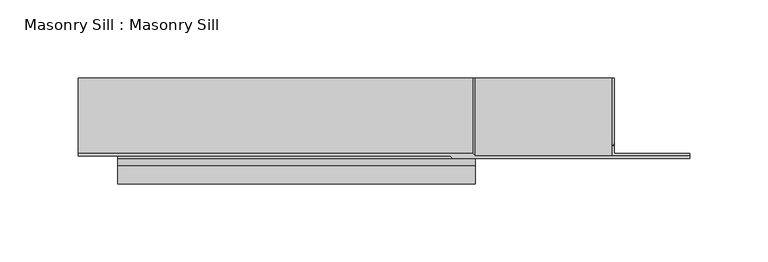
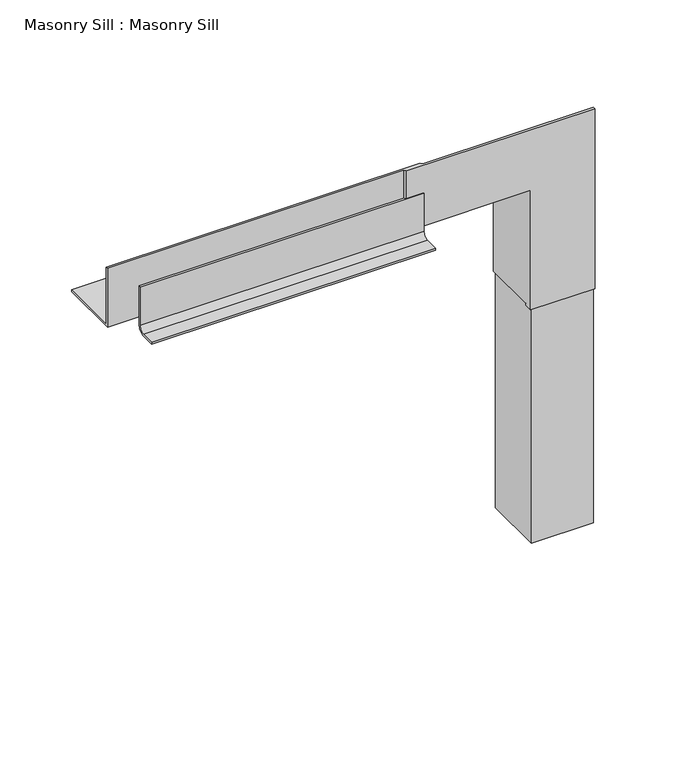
"""IFC4 building model written with IfcOpenShell, lengths in millimetres: proxy geometry, Masonry Sill : Masonry Sill."""

from ifc_helpers import new_model, si_unit, point, frame, frame_2d, origin, place, context, project, spatial, polyline, circle_curve, trimmed, segment, composite_curve, outline, extrude, faceted_brep, source, transform, mapped, element, save


def masonry_sill_masonry_sill_2c722ada(model_context):
    return source(origin(), model_context, "Body", "SolidModel", [
        extrude(outline(composite_curve([segment(polyline([(624.4566297, 296.8525191), (624.4566297, 329.4048158), (626.0441297, 329.4048158), (626.0441297, 296.8525191)]), True, "CONTINUOUS"), segment(trimmed(circle_curve(frame_2d((619.6941297, 296.8525191)), 6.35), [point((626.0441297, 296.8525191))], [point((619.6941297, 290.5025191))], False, "CARTESIAN"), True, "CONTINUOUS"), segment(polyline([(619.6941297, 290.5025191), (608.340453, 290.5025191), (608.340453, 292.0900191), (619.6941297, 292.0900191)]), True, "CONTINUOUS"), segment(trimmed(circle_curve(frame_2d((619.6941297, 296.8525191)), 4.7625), [point((619.6941297, 292.0900191))], [point((624.4566297, 296.8525191))], True, "CARTESIAN"), True, "CONTINUOUS")], self_intersect=False)), frame((26539.9726773, 0.0, 0.0), z_axis=(1.0, 0.0, 0.0), x_axis=(0.0, 1.0, 0.0)), (0.0, 0.0, 1.0), 228.6),
        faceted_brep([(26514.5726773, 626.0441297, 303.2125), (26514.5726773, 626.0441297, 353.2173158), (26514.5726773, 627.6316297, 353.2173158), (26514.5726773, 627.6316297, 304.8), (26514.5726773, 676.0489454, 304.8), (26514.5726773, 676.0489454, 303.2125), (26752.6976773, 626.0441297, 303.2125), (26752.6976773, 626.0441297, 353.2173158), (26754.2851773, 624.4566297, 353.2173158), (26905.8899931, 624.4566297, 353.2173158), (26905.8899931, 626.0441297, 353.2173158), (26768.5726773, 626.0441297, 353.2173158), (26766.9851773, 627.6316297, 353.2173158), (26766.9851773, 627.6316297, 304.8), (26766.9851773, 676.0489454, 304.8), (26768.5726773, 676.0489454, 303.2125), (26855.8851773, 676.0489454, 303.2125), (26855.8851773, 676.0489454, 215.9), (26857.4726773, 676.0489454, 214.3125), (26857.4726773, 676.0489454, 0.0), (26855.8851773, 676.0489454, 0.0), (26855.8851773, 676.0489454, 200.025), (26854.2976773, 676.0489454, 201.6125), (26854.2976773, 676.0489454, 301.625), (26754.2851773, 676.0489454, 301.625), (26752.6976773, 676.0489454, 303.2125), (26855.8851773, 626.0441297, 303.2125), (26768.5726773, 626.0441297, 303.2125), (26905.8899931, 626.0441297, 215.9), (26855.8851773, 626.0441297, 215.9), (26854.2976773, 624.4566297, 301.625), (26754.2851773, 624.4566297, 301.625), (26854.2976773, 624.4566297, 200.025), (26905.8899931, 624.4566297, 200.025), (26854.2976773, 630.8066297, 200.025), (26855.8851773, 630.8066297, 200.025), (26855.8851773, 626.0441297, 200.025), (26905.8899931, 626.0441297, 200.025), (26905.8899931, 626.0441297, 0.0), (26905.8899931, 627.6316297, 0.0), (26905.8899931, 627.6316297, 215.9), (26855.8851773, 632.3941297, 215.9), (26854.2976773, 630.8066297, 201.6125), (26857.4726773, 627.6316297, 215.9), (26857.4726773, 632.3941297, 215.9), (26855.8851773, 626.0441297, 0.0), (26857.4726773, 627.6316297, 0.0), (26857.4726773, 633.9816297, 214.3125), (26857.4726773, 632.3941297, 200.025), (26857.4726773, 630.8066297, 200.025), (26857.4726773, 630.8066297, 201.6125), (26855.8851773, 632.3941297, 200.025)], [[[0, 1, 2, 3, 4, 5]], [[1, 0, 6, 7]], [[2, 1, 7, 8, 9, 10, 11, 12]], [[3, 2, 12, 13]], [[4, 3, 13, 14]], [[5, 4, 14, 15, 16, 17, 18, 19, 20, 21, 22, 23, 24, 25]], [[0, 5, 25, 6]], [[26, 27, 11, 10, 28, 29]], [[26, 16, 15, 27]], [[23, 30, 31, 24]], [[30, 32, 33, 9, 8, 31]], [[33, 32, 34, 35, 36, 37]], [[10, 9, 33, 37, 38, 39, 40, 28]], [[16, 26, 29, 41, 17]], [[30, 23, 22, 42, 34, 32]], [[28, 40, 43, 44, 41, 29]], [[45, 20, 19, 46, 39, 38]], [[45, 38, 37, 36]], [[43, 40, 39, 46]], [[46, 19, 18, 47, 44, 43], [48, 49, 50]], [[20, 45, 36, 35, 51, 21]], [[31, 6, 25, 24]], [[6, 31, 8, 7]], [[13, 27, 15, 14]], [[27, 13, 12, 11]], [[51, 42, 22, 21]], [[42, 51, 48, 50]], [[41, 47, 18, 17]], [[47, 41, 44]], [[48, 51, 35, 49]], [[42, 50, 49, 35, 34]]]),
    ])


if __name__ == "__main__":
    model = new_model("IFC4")
    model_context = context("Model", 3, world=origin())
    ifc_project = project(units=[si_unit("LENGTHUNIT", "METRE", prefix="MILLI")], contexts=[model_context])
    site = spatial("IfcSite", under=ifc_project)
    building = spatial("IfcBuilding", under=site)
    placement = place(None, origin())
    masonry_sill_masonry_sill_shape = masonry_sill_masonry_sill_2c722ada(model_context)
    element("IfcBuildingElementProxy", 1, Name="Masonry Sill : Masonry Sill", ObjectType="Masonry Sill : Masonry Sill", at=placement, inside=building, context=model_context, shape_type="MappedRepresentation", body=[
        mapped(masonry_sill_masonry_sill_shape, transform((0.0, 0.0, 0.0), x_axis=(1.0, 0.0, 0.0), y_axis=(0.0, 1.0, 0.0), z_axis=(0.0, 0.0, 1.0))),
    ])
    save(model, "model.ifc")
